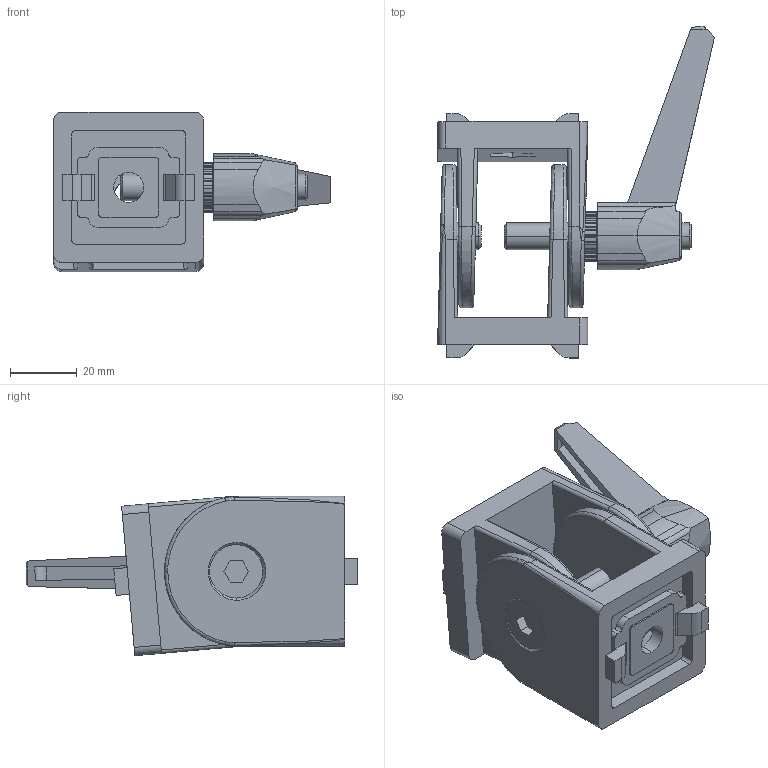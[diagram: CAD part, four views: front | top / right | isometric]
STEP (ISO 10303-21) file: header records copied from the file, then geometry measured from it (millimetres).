
FILE_DESCRIPTION (( 'STEP AP214' ), '1' );
FILE_NAME ('084.311.019.STEP', '2021-02-05T10:55:21', ( '' ), ( '' ), 'SwSTEP 2.0', 'SolidWorks 2018', '' );
FILE_SCHEMA (( 'AUTOMOTIVE_DESIGN' ));
Length unit declared in the file: millimetre
Products named in the file (5): 084.311.015L; 084.311.010-2; 084.311.019; MR8X20; VITI TSEI UNI 5933_M8x12 UNI 5933
Assembly tree (6 placements, depth 2):
  084.311.019
    084.311.015L  x2
    VITI TSEI UNI 5933_M8x12 UNI 5933
    084.311.010-2  x2
    MR8X20
Bounding box: 83 x 99.53 x 47.79 mm (x, y, z)
Volume: 78134.8 mm3; surface area: 38559.8 mm2
Topology: 6 solids, 6 shells, 427 faces, 1162 edges, 754 vertices
Faces by surface type: plane 193, cylinder 165, cone 41, bspline 28
Entity records: 10932 total; most frequent: CARTESIAN_POINT 2744, ORIENTED_EDGE 1692, DIRECTION 1584, EDGE_CURVE 846, AXIS2_PLACEMENT_3D 557, VERTEX_POINT 554, VECTOR 470, LINE 470
